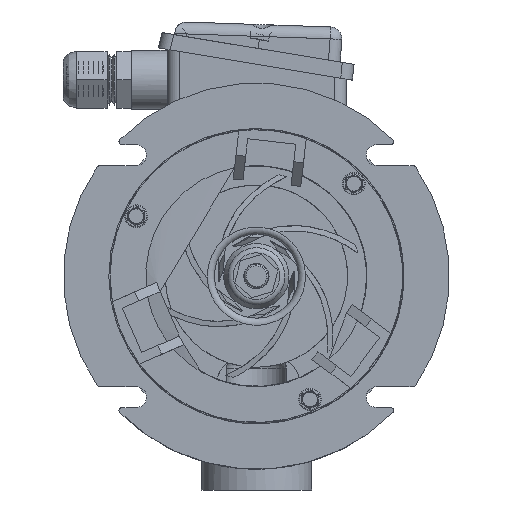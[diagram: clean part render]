
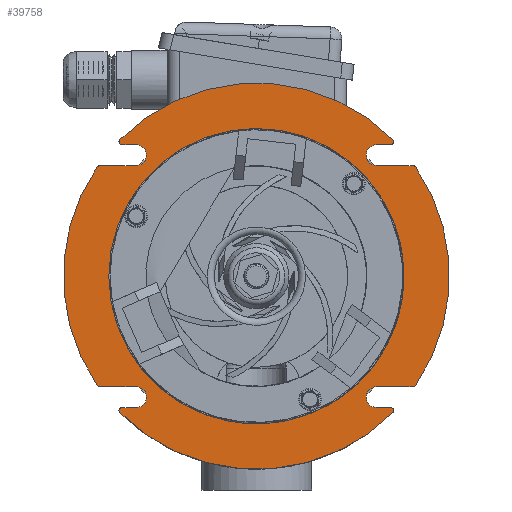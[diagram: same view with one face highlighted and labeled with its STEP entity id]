
A CAD part, front view. The second image highlights one B-rep face of the part: STEP entity #39758.
In plain terms, the highlighted planar face has unit normal (0, -1, 0).
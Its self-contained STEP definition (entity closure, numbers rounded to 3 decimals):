
#721=FACE_BOUND('',#12136,.T.);
#1665=PLANE('',#43123);
#4357=LINE('',#83142,#7202);
#4360=LINE('',#83152,#7205);
#4361=LINE('',#83156,#7206);
#4362=LINE('',#83164,#7207);
#4363=LINE('',#83168,#7208);
#4364=LINE('',#83176,#7209);
#4365=LINE('',#83180,#7210);
#4366=LINE('',#83188,#7211);
#7202=VECTOR('',#52131,1.);
#7205=VECTOR('',#52140,1.);
#7206=VECTOR('',#52143,1.);
#7207=VECTOR('',#52150,1.);
#7208=VECTOR('',#52153,1.);
#7209=VECTOR('',#52160,1.);
#7210=VECTOR('',#52163,1.);
#7211=VECTOR('',#52170,1.);
#9870=FACE_OUTER_BOUND('',#12135,.T.);
#12135=EDGE_LOOP('',(#34330,#34331,#34332,#34333,#34334,#34335,#34336,#34337,
#34338,#34339,#34340,#34341,#34342,#34343,#34344,#34345,#34346,#34347,#34348,
#34349,#34350,#34351,#34352,#34353));
#12136=EDGE_LOOP('',(#34354,#34355));
#14885=CIRCLE('',#43121,0.1);
#14886=CIRCLE('',#43124,6.5);
#14887=CIRCLE('',#43125,0.1);
#14888=CIRCLE('',#43126,0.35);
#14889=CIRCLE('',#43127,0.1);
#14890=CIRCLE('',#43128,6.5);
#14891=CIRCLE('',#43129,0.1);
#14892=CIRCLE('',#43130,0.35);
#14893=CIRCLE('',#43131,0.1);
#14894=CIRCLE('',#43132,6.5);
#14895=CIRCLE('',#43133,0.1);
#14896=CIRCLE('',#43134,0.35);
#14897=CIRCLE('',#43135,0.1);
#14898=CIRCLE('',#43136,6.5);
#14899=CIRCLE('',#43137,0.1);
#14900=CIRCLE('',#43138,0.35);
#14901=CIRCLE('',#43139,4.97);
#14902=CIRCLE('',#43140,4.97);
#18336=VERTEX_POINT('',#83135);
#18337=VERTEX_POINT('',#83137);
#18338=VERTEX_POINT('',#83141);
#18340=VERTEX_POINT('',#83147);
#18341=VERTEX_POINT('',#83149);
#18342=VERTEX_POINT('',#83151);
#18343=VERTEX_POINT('',#83153);
#18344=VERTEX_POINT('',#83155);
#18345=VERTEX_POINT('',#83157);
#18346=VERTEX_POINT('',#83159);
#18347=VERTEX_POINT('',#83161);
#18348=VERTEX_POINT('',#83163);
#18349=VERTEX_POINT('',#83165);
#18350=VERTEX_POINT('',#83167);
#18351=VERTEX_POINT('',#83169);
#18352=VERTEX_POINT('',#83171);
#18353=VERTEX_POINT('',#83173);
#18354=VERTEX_POINT('',#83175);
#18355=VERTEX_POINT('',#83177);
#18356=VERTEX_POINT('',#83179);
#18357=VERTEX_POINT('',#83181);
#18358=VERTEX_POINT('',#83183);
#18359=VERTEX_POINT('',#83185);
#18360=VERTEX_POINT('',#83187);
#18361=VERTEX_POINT('',#83190);
#18362=VERTEX_POINT('',#83191);
#23769=EDGE_CURVE('',#18336,#18337,#14885,.T.);
#23771=EDGE_CURVE('',#18338,#18337,#4357,.T.);
#23774=EDGE_CURVE('',#18336,#18340,#14886,.T.);
#23775=EDGE_CURVE('',#18341,#18340,#14887,.T.);
#23776=EDGE_CURVE('',#18341,#18342,#4360,.T.);
#23777=EDGE_CURVE('',#18343,#18342,#14888,.T.);
#23778=EDGE_CURVE('',#18343,#18344,#4361,.T.);
#23779=EDGE_CURVE('',#18345,#18344,#14889,.T.);
#23780=EDGE_CURVE('',#18345,#18346,#14890,.T.);
#23781=EDGE_CURVE('',#18347,#18346,#14891,.T.);
#23782=EDGE_CURVE('',#18347,#18348,#4362,.T.);
#23783=EDGE_CURVE('',#18349,#18348,#14892,.T.);
#23784=EDGE_CURVE('',#18349,#18350,#4363,.T.);
#23785=EDGE_CURVE('',#18351,#18350,#14893,.T.);
#23786=EDGE_CURVE('',#18351,#18352,#14894,.T.);
#23787=EDGE_CURVE('',#18353,#18352,#14895,.T.);
#23788=EDGE_CURVE('',#18353,#18354,#4364,.T.);
#23789=EDGE_CURVE('',#18355,#18354,#14896,.T.);
#23790=EDGE_CURVE('',#18355,#18356,#4365,.T.);
#23791=EDGE_CURVE('',#18357,#18356,#14897,.T.);
#23792=EDGE_CURVE('',#18357,#18358,#14898,.T.);
#23793=EDGE_CURVE('',#18359,#18358,#14899,.T.);
#23794=EDGE_CURVE('',#18359,#18360,#4366,.T.);
#23795=EDGE_CURVE('',#18338,#18360,#14900,.T.);
#23796=EDGE_CURVE('',#18361,#18362,#14901,.T.);
#23797=EDGE_CURVE('',#18362,#18361,#14902,.T.);
#34330=ORIENTED_EDGE('',*,*,#23769,.F.);
#34331=ORIENTED_EDGE('',*,*,#23774,.T.);
#34332=ORIENTED_EDGE('',*,*,#23775,.F.);
#34333=ORIENTED_EDGE('',*,*,#23776,.T.);
#34334=ORIENTED_EDGE('',*,*,#23777,.F.);
#34335=ORIENTED_EDGE('',*,*,#23778,.T.);
#34336=ORIENTED_EDGE('',*,*,#23779,.F.);
#34337=ORIENTED_EDGE('',*,*,#23780,.T.);
#34338=ORIENTED_EDGE('',*,*,#23781,.F.);
#34339=ORIENTED_EDGE('',*,*,#23782,.T.);
#34340=ORIENTED_EDGE('',*,*,#23783,.F.);
#34341=ORIENTED_EDGE('',*,*,#23784,.T.);
#34342=ORIENTED_EDGE('',*,*,#23785,.F.);
#34343=ORIENTED_EDGE('',*,*,#23786,.T.);
#34344=ORIENTED_EDGE('',*,*,#23787,.F.);
#34345=ORIENTED_EDGE('',*,*,#23788,.T.);
#34346=ORIENTED_EDGE('',*,*,#23789,.F.);
#34347=ORIENTED_EDGE('',*,*,#23790,.T.);
#34348=ORIENTED_EDGE('',*,*,#23791,.F.);
#34349=ORIENTED_EDGE('',*,*,#23792,.T.);
#34350=ORIENTED_EDGE('',*,*,#23793,.F.);
#34351=ORIENTED_EDGE('',*,*,#23794,.T.);
#34352=ORIENTED_EDGE('',*,*,#23795,.F.);
#34353=ORIENTED_EDGE('',*,*,#23771,.T.);
#34354=ORIENTED_EDGE('',*,*,#23796,.F.);
#34355=ORIENTED_EDGE('',*,*,#23797,.F.);
#39758=ADVANCED_FACE('',(#9870,#721),#1665,.T.);
#43121=AXIS2_PLACEMENT_3D('',#83138,#52126,#52127);
#43123=AXIS2_PLACEMENT_3D('',#83146,#52134,#52135);
#43124=AXIS2_PLACEMENT_3D('',#83148,#52136,#52137);
#43125=AXIS2_PLACEMENT_3D('',#83150,#52138,#52139);
#43126=AXIS2_PLACEMENT_3D('',#83154,#52141,#52142);
#43127=AXIS2_PLACEMENT_3D('',#83158,#52144,#52145);
#43128=AXIS2_PLACEMENT_3D('',#83160,#52146,#52147);
#43129=AXIS2_PLACEMENT_3D('',#83162,#52148,#52149);
#43130=AXIS2_PLACEMENT_3D('',#83166,#52151,#52152);
#43131=AXIS2_PLACEMENT_3D('',#83170,#52154,#52155);
#43132=AXIS2_PLACEMENT_3D('',#83172,#52156,#52157);
#43133=AXIS2_PLACEMENT_3D('',#83174,#52158,#52159);
#43134=AXIS2_PLACEMENT_3D('',#83178,#52161,#52162);
#43135=AXIS2_PLACEMENT_3D('',#83182,#52164,#52165);
#43136=AXIS2_PLACEMENT_3D('',#83184,#52166,#52167);
#43137=AXIS2_PLACEMENT_3D('',#83186,#52168,#52169);
#43138=AXIS2_PLACEMENT_3D('',#83189,#52171,#52172);
#43139=AXIS2_PLACEMENT_3D('',#83192,#52173,#52174);
#43140=AXIS2_PLACEMENT_3D('',#83193,#52175,#52176);
#52126=DIRECTION('center_axis',(0.,1.,0.));
#52127=DIRECTION('ref_axis',(0.466,0.,-0.885));
#52131=DIRECTION('',(1.,0.,0.));
#52134=DIRECTION('center_axis',(0.,-1.,0.));
#52135=DIRECTION('ref_axis',(0.,0.,-1.));
#52136=DIRECTION('center_axis',(0.,-1.,0.));
#52137=DIRECTION('ref_axis',(1.,0.,0.));
#52138=DIRECTION('center_axis',(0.,1.,0.));
#52139=DIRECTION('ref_axis',(0.466,0.,0.885));
#52140=DIRECTION('',(-1.,0.,0.));
#52141=DIRECTION('center_axis',(0.,-1.,0.));
#52142=DIRECTION('ref_axis',(-0.707,0.,0.707));
#52143=DIRECTION('',(1.,0.,0.));
#52144=DIRECTION('center_axis',(0.,1.,0.));
#52145=DIRECTION('ref_axis',(0.924,0.,-0.383));
#52146=DIRECTION('center_axis',(0.,-1.,0.));
#52147=DIRECTION('ref_axis',(1.,0.,0.));
#52148=DIRECTION('center_axis',(0.,1.,0.));
#52149=DIRECTION('ref_axis',(-0.924,0.,-0.383));
#52150=DIRECTION('',(1.,0.,0.));
#52151=DIRECTION('center_axis',(0.,-1.,0.));
#52152=DIRECTION('ref_axis',(0.707,0.,-0.707));
#52153=DIRECTION('',(-1.,0.,0.));
#52154=DIRECTION('center_axis',(0.,1.,0.));
#52155=DIRECTION('ref_axis',(-0.466,0.,0.885));
#52156=DIRECTION('center_axis',(0.,-1.,0.));
#52157=DIRECTION('ref_axis',(1.,0.,0.));
#52158=DIRECTION('center_axis',(0.,1.,0.));
#52159=DIRECTION('ref_axis',(-0.466,0.,-0.885));
#52160=DIRECTION('',(1.,0.,0.));
#52161=DIRECTION('center_axis',(0.,-1.,0.));
#52162=DIRECTION('ref_axis',(0.707,0.,-0.707));
#52163=DIRECTION('',(-1.,0.,0.));
#52164=DIRECTION('center_axis',(0.,1.,0.));
#52165=DIRECTION('ref_axis',(-0.924,0.,0.383));
#52166=DIRECTION('center_axis',(0.,-1.,0.));
#52167=DIRECTION('ref_axis',(1.,0.,0.));
#52168=DIRECTION('center_axis',(0.,1.,0.));
#52169=DIRECTION('ref_axis',(0.924,0.,0.383));
#52170=DIRECTION('',(-1.,0.,0.));
#52171=DIRECTION('center_axis',(0.,-1.,0.));
#52172=DIRECTION('ref_axis',(-0.707,0.,0.707));
#52173=DIRECTION('center_axis',(0.,-1.,0.));
#52174=DIRECTION('ref_axis',(1.,0.,0.));
#52175=DIRECTION('center_axis',(0.,-1.,0.));
#52176=DIRECTION('ref_axis',(1.,0.,0.));
#83135=CARTESIAN_POINT('',(5.357,0.223,-3.682));
#83137=CARTESIAN_POINT('',(5.274,0.223,-3.725));
#83138=CARTESIAN_POINT('Origin',(5.274,0.223,-3.625));
#83141=CARTESIAN_POINT('',(4.05,0.223,-3.725));
#83142=CARTESIAN_POINT('',(6.463,0.223,-3.725));
#83146=CARTESIAN_POINT('Origin',(4.97,0.223,0.));
#83147=CARTESIAN_POINT('',(5.357,0.223,3.682));
#83148=CARTESIAN_POINT('Origin',(0.,0.223,0.));
#83149=CARTESIAN_POINT('',(5.274,0.223,3.725));
#83150=CARTESIAN_POINT('Origin',(5.274,0.223,3.625));
#83151=CARTESIAN_POINT('',(4.05,0.223,3.725));
#83152=CARTESIAN_POINT('',(6.463,0.223,3.725));
#83153=CARTESIAN_POINT('',(4.05,0.223,4.425));
#83154=CARTESIAN_POINT('Origin',(4.05,0.223,4.075));
#83155=CARTESIAN_POINT('',(4.526,0.223,4.425));
#83156=CARTESIAN_POINT('',(4.335,0.223,4.425));
#83157=CARTESIAN_POINT('',(4.597,0.223,4.596));
#83158=CARTESIAN_POINT('Origin',(4.526,0.223,4.525));
#83159=CARTESIAN_POINT('',(-4.597,0.223,4.596));
#83160=CARTESIAN_POINT('Origin',(0.,0.223,0.));
#83161=CARTESIAN_POINT('',(-4.526,0.223,4.425));
#83162=CARTESIAN_POINT('Origin',(-4.526,0.223,4.525));
#83163=CARTESIAN_POINT('',(-4.05,0.223,4.425));
#83164=CARTESIAN_POINT('',(0.635,0.223,4.425));
#83165=CARTESIAN_POINT('',(-4.05,0.223,3.725));
#83166=CARTESIAN_POINT('Origin',(-4.05,0.223,4.075));
#83167=CARTESIAN_POINT('',(-5.274,0.223,3.725));
#83168=CARTESIAN_POINT('',(-1.493,0.223,3.725));
#83169=CARTESIAN_POINT('',(-5.357,0.223,3.682));
#83170=CARTESIAN_POINT('Origin',(-5.274,0.223,3.625));
#83171=CARTESIAN_POINT('',(-5.357,0.223,-3.682));
#83172=CARTESIAN_POINT('Origin',(0.,0.223,0.));
#83173=CARTESIAN_POINT('',(-5.274,0.223,-3.725));
#83174=CARTESIAN_POINT('Origin',(-5.274,0.223,-3.625));
#83175=CARTESIAN_POINT('',(-4.05,0.223,-3.725));
#83176=CARTESIAN_POINT('',(-1.493,0.223,-3.725));
#83177=CARTESIAN_POINT('',(-4.05,0.223,-4.425));
#83178=CARTESIAN_POINT('Origin',(-4.05,0.223,-4.075));
#83179=CARTESIAN_POINT('',(-4.526,0.223,-4.425));
#83180=CARTESIAN_POINT('',(0.635,0.223,-4.425));
#83181=CARTESIAN_POINT('',(-4.597,0.223,-4.596));
#83182=CARTESIAN_POINT('Origin',(-4.526,0.223,-4.525));
#83183=CARTESIAN_POINT('',(4.597,0.223,-4.596));
#83184=CARTESIAN_POINT('Origin',(0.,0.223,0.));
#83185=CARTESIAN_POINT('',(4.526,0.223,-4.425));
#83186=CARTESIAN_POINT('Origin',(4.526,0.223,-4.525));
#83187=CARTESIAN_POINT('',(4.05,0.223,-4.425));
#83188=CARTESIAN_POINT('',(4.335,0.223,-4.425));
#83189=CARTESIAN_POINT('Origin',(4.05,0.223,-4.075));
#83190=CARTESIAN_POINT('',(4.97,0.223,0.));
#83191=CARTESIAN_POINT('',(-4.97,0.223,0.));
#83192=CARTESIAN_POINT('Origin',(0.,0.223,0.));
#83193=CARTESIAN_POINT('Origin',(0.,0.223,0.));
